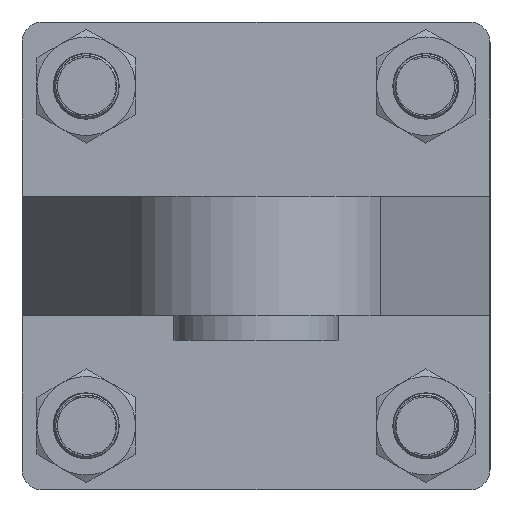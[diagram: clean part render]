
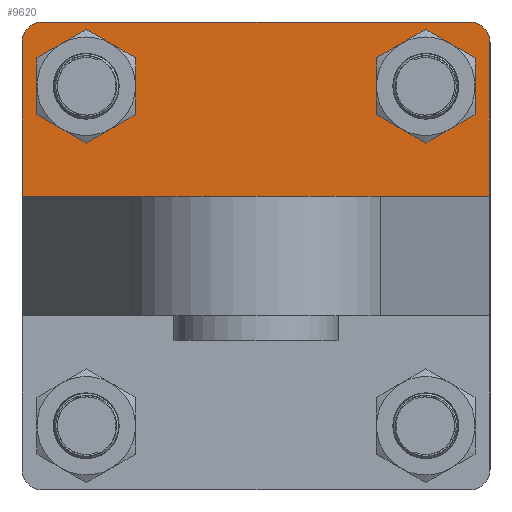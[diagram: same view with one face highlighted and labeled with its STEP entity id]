
A CAD part, left-side view. The second image highlights one B-rep face of the part: STEP entity #9620.
In plain terms, the highlighted planar face has unit normal (-1, 0, 0).
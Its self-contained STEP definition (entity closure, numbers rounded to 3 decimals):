
#1089=FACE_BOUND('',#2013,.T.);
#1090=FACE_BOUND('',#2014,.T.);
#1183=PLANE('',#10542);
#1368=FACE_OUTER_BOUND('',#2012,.T.);
#2012=EDGE_LOOP('',(#6586,#6587,#6588,#6589,#6590,#6591));
#2013=EDGE_LOOP('',(#6592));
#2014=EDGE_LOOP('',(#6593));
#2712=LINE('',#14613,#3120);
#2736=LINE('',#14725,#3144);
#2737=LINE('',#14729,#3145);
#2738=LINE('',#14732,#3146);
#3120=VECTOR('',#11761,10.);
#3144=VECTOR('',#11893,10.);
#3145=VECTOR('',#11896,10.);
#3146=VECTOR('',#11899,10.);
#3550=CIRCLE('',#10541,8.5);
#3551=CIRCLE('',#10543,5.);
#3552=CIRCLE('',#10544,5.);
#3553=CIRCLE('',#10545,8.5);
#4062=VERTEX_POINT('',#14587);
#4067=VERTEX_POINT('',#14601);
#4071=VERTEX_POINT('',#14611);
#4105=VERTEX_POINT('',#14721);
#4106=VERTEX_POINT('',#14726);
#4107=VERTEX_POINT('',#14728);
#4108=VERTEX_POINT('',#14730);
#4109=VERTEX_POINT('',#14733);
#5000=EDGE_CURVE('',#4071,#4062,#2712,.T.);
#5053=EDGE_CURVE('',#4105,#4105,#3550,.T.);
#5055=EDGE_CURVE('',#4062,#4067,#2736,.T.);
#5056=EDGE_CURVE('',#4106,#4071,#3551,.T.);
#5057=EDGE_CURVE('',#4107,#4106,#2737,.T.);
#5058=EDGE_CURVE('',#4108,#4107,#3552,.T.);
#5059=EDGE_CURVE('',#4067,#4108,#2738,.T.);
#5060=EDGE_CURVE('',#4109,#4109,#3553,.T.);
#6586=ORIENTED_EDGE('',*,*,#5055,.F.);
#6587=ORIENTED_EDGE('',*,*,#5000,.F.);
#6588=ORIENTED_EDGE('',*,*,#5056,.F.);
#6589=ORIENTED_EDGE('',*,*,#5057,.F.);
#6590=ORIENTED_EDGE('',*,*,#5058,.F.);
#6591=ORIENTED_EDGE('',*,*,#5059,.F.);
#6592=ORIENTED_EDGE('',*,*,#5060,.F.);
#6593=ORIENTED_EDGE('',*,*,#5053,.F.);
#9620=ADVANCED_FACE('',(#1368,#1089,#1090),#1183,.T.);
#10541=AXIS2_PLACEMENT_3D('',#14722,#11888,#11889);
#10542=AXIS2_PLACEMENT_3D('',#14724,#11891,#11892);
#10543=AXIS2_PLACEMENT_3D('',#14727,#11894,#11895);
#10544=AXIS2_PLACEMENT_3D('',#14731,#11897,#11898);
#10545=AXIS2_PLACEMENT_3D('',#14734,#11900,#11901);
#11761=DIRECTION('',(0.,0.,-1.));
#11888=DIRECTION('center_axis',(-1.,0.,0.));
#11889=DIRECTION('ref_axis',(0.,-1.,0.));
#11891=DIRECTION('center_axis',(-1.,0.,0.));
#11892=DIRECTION('ref_axis',(0.,-1.,0.));
#11893=DIRECTION('',(0.,1.,0.));
#11894=DIRECTION('center_axis',(1.,0.,0.));
#11895=DIRECTION('ref_axis',(0.,-0.707,0.707));
#11896=DIRECTION('',(0.,-1.,0.));
#11897=DIRECTION('center_axis',(1.,0.,0.));
#11898=DIRECTION('ref_axis',(0.,0.707,0.707));
#11899=DIRECTION('',(0.,0.,1.));
#11900=DIRECTION('center_axis',(-1.,0.,0.));
#11901=DIRECTION('ref_axis',(0.,-1.,0.));
#14587=CARTESIAN_POINT('',(90.,0.,71.5));
#14601=CARTESIAN_POINT('',(90.,114.,71.5));
#14611=CARTESIAN_POINT('',(90.,0.,109.));
#14613=CARTESIAN_POINT('',(90.,0.,103.375));
#14721=CARTESIAN_POINT('',(90.,24.15,98.35));
#14722=CARTESIAN_POINT('Origin',(90.,15.65,98.35));
#14724=CARTESIAN_POINT('Origin',(90.,15.65,98.35));
#14725=CARTESIAN_POINT('',(90.,114.,71.5));
#14726=CARTESIAN_POINT('',(90.,5.,114.));
#14727=CARTESIAN_POINT('Origin',(90.,5.,109.));
#14728=CARTESIAN_POINT('',(90.,109.,114.));
#14729=CARTESIAN_POINT('',(90.,85.5,114.));
#14730=CARTESIAN_POINT('',(90.,114.,109.));
#14731=CARTESIAN_POINT('Origin',(90.,109.,109.));
#14732=CARTESIAN_POINT('',(90.,114.,46.375));
#14733=CARTESIAN_POINT('',(90.,106.85,98.35));
#14734=CARTESIAN_POINT('Origin',(90.,98.35,98.35));
